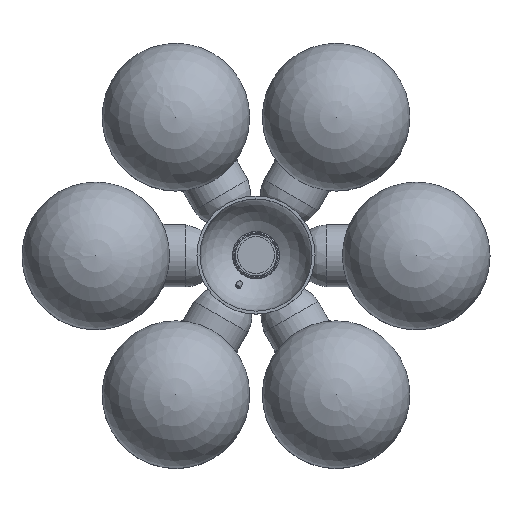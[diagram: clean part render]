
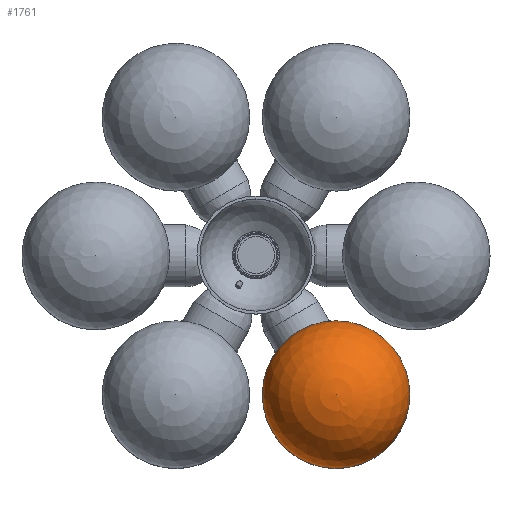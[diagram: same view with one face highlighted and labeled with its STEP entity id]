
A CAD part, top view. The second image highlights one B-rep face of the part: STEP entity #1761.
In plain terms, the highlighted spherical face has radius 50 mm.
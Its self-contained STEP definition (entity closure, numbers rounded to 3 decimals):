
#18=SPHERICAL_SURFACE('',#1975,50.);
#360=FACE_OUTER_BOUND('',#511,.T.);
#511=EDGE_LOOP('',(#1251,#1252,#1253,#1254));
#673=CIRCLE('',#1970,50.);
#675=CIRCLE('',#1972,50.);
#676=CIRCLE('',#1976,50.);
#822=VERTEX_POINT('',#2948);
#823=VERTEX_POINT('',#2949);
#827=VERTEX_POINT('',#4291);
#987=EDGE_CURVE('',#822,#823,#673,.T.);
#990=EDGE_CURVE('',#823,#822,#675,.T.);
#994=EDGE_CURVE('',#827,#823,#676,.T.);
#1251=ORIENTED_EDGE('',*,*,#987,.T.);
#1252=ORIENTED_EDGE('',*,*,#994,.F.);
#1253=ORIENTED_EDGE('',*,*,#994,.T.);
#1254=ORIENTED_EDGE('',*,*,#990,.T.);
#1761=ADVANCED_FACE('',(#360),#18,.T.);
#1970=AXIS2_PLACEMENT_3D('',#2950,#2277,#2278);
#1972=AXIS2_PLACEMENT_3D('',#2954,#2282,#2283);
#1975=AXIS2_PLACEMENT_3D('',#4290,#2289,#2290);
#1976=AXIS2_PLACEMENT_3D('',#4292,#2291,#2292);
#2277=DIRECTION('center_axis',(0.,0.,
1.));
#2278=DIRECTION('ref_axis',(0.866,0.5,0.));
#2282=DIRECTION('center_axis',(0.,0.,
1.));
#2283=DIRECTION('ref_axis',(0.866,0.5,0.));
#2289=DIRECTION('center_axis',(0.,0.,1.));
#2290=DIRECTION('ref_axis',(-0.5,0.866,0.));
#2291=DIRECTION('center_axis',(0.866,0.5,0.));
#2292=DIRECTION('ref_axis',(0.5,-0.866,0.));
#2948=CARTESIAN_POINT('',(97.575,-69.006,122.));
#2949=CARTESIAN_POINT('',(79.274,-137.307,122.));
#2950=CARTESIAN_POINT('Origin',(54.274,-94.006,122.));
#2954=CARTESIAN_POINT('Origin',(54.274,-94.006,122.));
#4290=CARTESIAN_POINT('Origin',(54.274,-94.006,122.));
#4291=CARTESIAN_POINT('',(54.274,-94.006,172.));
#4292=CARTESIAN_POINT('Origin',(54.274,-94.006,122.));
